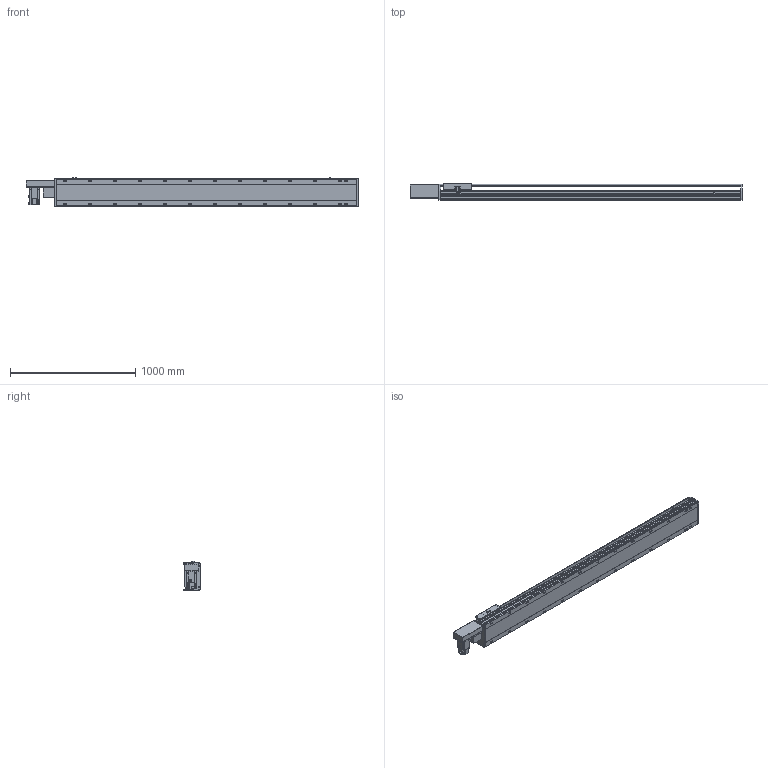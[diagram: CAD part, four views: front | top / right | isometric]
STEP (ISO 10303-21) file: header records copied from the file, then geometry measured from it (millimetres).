
FILE_DESCRIPTION(/* description */ ('STEP AP214'),/* implementation_level */ '2;1');
FILE_NAME(/* name */ 'PBS220-P40-S2050-R-T75-C1-N(0)',/* time_stamp */ '2022-06-11T10:02:19+02:00',/* author */ ('License CC BY-ND 4.0'),/* organization */ ('CADENAS'),/* preprocessor_version */ 'ST-DEVELOPER v18.102',/* originating_system */ 'PARTsolutions',/* authorisation */ ' ');
FILE_SCHEMA (('AUTOMOTIVE_DESIGN {1 0 10303 214 3 1 1}'));
Length unit declared in the file: millimetre
Products named in the file (7): PBS220-P40-S2050-R-T75-C1-N(0); PBS220_sensor; PBS220_plant; PBS220_sliser; T75-p1; PBS220T-R_motors; PBS220-S2050()_body
Assembly tree (8 placements, depth 2):
  PBS220-P40-S2050-R-T75-C1-N(0)
    PBS220_sensor  x3
    PBS220_plant
    PBS220_sliser
    T75-p1
    PBS220T-R_motors
    PBS220-S2050()_body
Bounding box: 2656 x 134 x 238.5 mm (x, y, z)
Volume: 35592533.8 mm3; surface area: 3305450.5 mm2
Topology: 8 solids, 8 shells, 974 faces, 2536 edges, 1648 vertices
Faces by surface type: plane 618, cylinder 306, cone 50
Full cylindrical faces by diameter (mm): 2.013 x4, 4.5 x14, 4.917 x4, 6 x7, 6.647 x8, 8 x10, 8.376 x26, 8.5 x26, 10 x6, 14 x26, 38 x2, 40 x1, 70 x1
Entity records: 27189 total; most frequent: CARTESIAN_POINT 4822, DIRECTION 4725, ORIENTED_EDGE 4286, EDGE_CURVE 2143, AXIS2_PLACEMENT_3D 1685, VERTEX_POINT 1496, LINE 1355, VECTOR 1355
